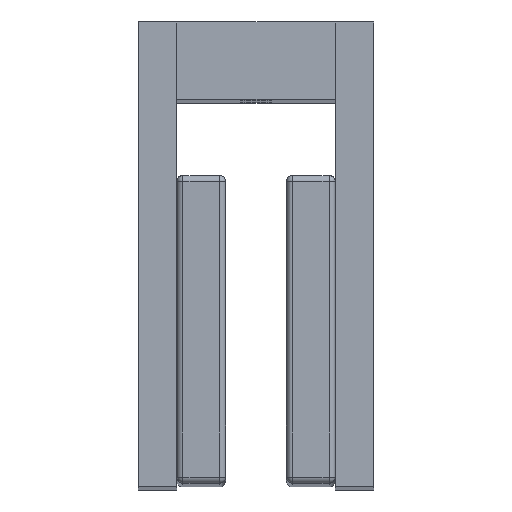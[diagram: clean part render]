
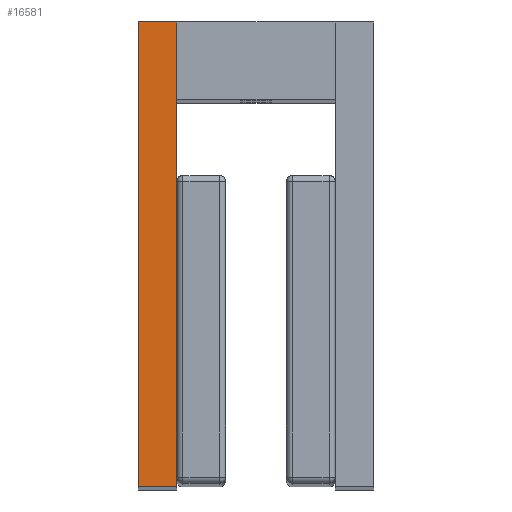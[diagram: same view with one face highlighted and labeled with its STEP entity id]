
A CAD part, top view. The second image highlights one B-rep face of the part: STEP entity #16581.
In plain terms, the highlighted planar face has unit normal (0, 0, 1) as drawn and (-1, 0, 0) by its records, which use the part's own axes.
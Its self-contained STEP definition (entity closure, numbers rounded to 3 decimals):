
#14 = ORIENTED_EDGE ( 'NONE', *, *, #7149, .T. ) ;
#559 = LINE ( 'NONE', #9732, #14523 ) ;
#595 = ORIENTED_EDGE ( 'NONE', *, *, #12580, .F. ) ;
#832 = LINE ( 'NONE', #5554, #19415 ) ;
#1277 = AXIS2_PLACEMENT_3D ( 'NONE', #8752, #12425, #1497 ) ;
#1497 = DIRECTION ( 'NONE',  ( 0., 0., -1. ) ) ;
#1741 = EDGE_LOOP ( 'NONE', ( #14833, #19457, #595, #14 ) ) ;
#2447 = FACE_OUTER_BOUND ( 'NONE', #1741, .T. ) ;
#4001 = VECTOR ( 'NONE', #4730, 1000. ) ;
#4619 = VERTEX_POINT ( 'NONE', #22804 ) ;
#4730 = DIRECTION ( 'NONE',  ( 0., 0., -1. ) ) ;
#5554 = CARTESIAN_POINT ( 'NONE',  ( 0., 0., 6.35 ) ) ;
#5645 = VECTOR ( 'NONE', #14387, 1000. ) ;
#5963 = EDGE_CURVE ( 'NONE', #4619, #20493, #559, .T. ) ;
#6238 = EDGE_CURVE ( 'NONE', #18174, #20493, #832, .T. ) ;
#7149 = EDGE_CURVE ( 'NONE', #22133, #4619, #7682, .T. ) ;
#7682 = LINE ( 'NONE', #15597, #4001 ) ;
#8752 = CARTESIAN_POINT ( 'NONE',  ( 0., 0., 6.35 ) ) ;
#8923 = CARTESIAN_POINT ( 'NONE',  ( 0., 0., 6.35 ) ) ;
#9732 = CARTESIAN_POINT ( 'NONE',  ( 0., 0., 0. ) ) ;
#10945 = CARTESIAN_POINT ( 'NONE',  ( 0., 0., 0. ) ) ;
#12230 = LINE ( 'NONE', #8923, #5645 ) ;
#12425 = DIRECTION ( 'NONE',  ( 1., 0., 0. ) ) ;
#12580 = EDGE_CURVE ( 'NONE', #22133, #18174, #12230, .T. ) ;
#14313 = CARTESIAN_POINT ( 'NONE',  ( 0., 0., 6.35 ) ) ;
#14387 = DIRECTION ( 'NONE',  ( 0., -1., 0. ) ) ;
#14523 = VECTOR ( 'NONE', #22043, 1000. ) ;
#14833 = ORIENTED_EDGE ( 'NONE', *, *, #5963, .T. ) ;
#15597 = CARTESIAN_POINT ( 'NONE',  ( 0., 76.2, 6.35 ) ) ;
#16374 = DIRECTION ( 'NONE',  ( 0., 0., -1. ) ) ;
#16581 = ADVANCED_FACE ( 'NONE', ( #2447 ), #17552, .F. ) ;
#17552 = PLANE ( 'NONE',  #1277 ) ;
#18174 = VERTEX_POINT ( 'NONE', #14313 ) ;
#19415 = VECTOR ( 'NONE', #16374, 1000. ) ;
#19457 = ORIENTED_EDGE ( 'NONE', *, *, #6238, .F. ) ;
#20493 = VERTEX_POINT ( 'NONE', #10945 ) ;
#22043 = DIRECTION ( 'NONE',  ( 0., -1., 0. ) ) ;
#22133 = VERTEX_POINT ( 'NONE', #22717 ) ;
#22717 = CARTESIAN_POINT ( 'NONE',  ( 0., 76.2, 6.35 ) ) ;
#22804 = CARTESIAN_POINT ( 'NONE',  ( 0., 76.2, 0. ) ) ;
